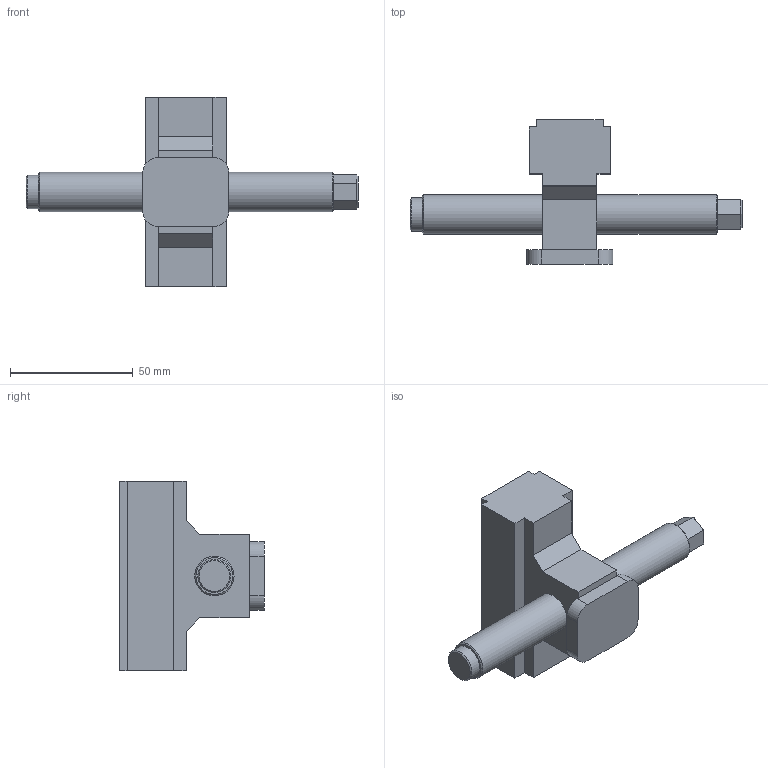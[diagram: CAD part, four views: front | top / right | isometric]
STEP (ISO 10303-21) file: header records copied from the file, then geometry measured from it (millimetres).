
FILE_DESCRIPTION (( 'STEP AP214' ), '1' );
FILE_NAME ('48120-TG7727.STEP', '2020-03-24T14:44:07', ( '' ), ( '' ), 'SwSTEP 2.0', 'SolidWorks 2019', '' );
FILE_SCHEMA (( 'AUTOMOTIVE_DESIGN' ));
Length unit declared in the file: millimetre
Products named in the file (1): 48120-TG7727
Bounding box: 135 x 58.8 x 77 mm (x, y, z)
Volume: 110070 mm3; surface area: 20711.6 mm2
Topology: 1 solids, 1 shells, 67 faces, 163 edges, 103 vertices
Faces by surface type: plane 57, cylinder 7, cone 3
Full cylindrical faces by diameter (mm): 13.5 x1, 16 x2
Entity records: 2410 total; most frequent: CARTESIAN_POINT 324, ORIENTED_EDGE 310, DIRECTION 308, EDGE_CURVE 155, VECTOR 138, LINE 138, VERTEX_POINT 101, AXIS2_PLACEMENT_3D 85
